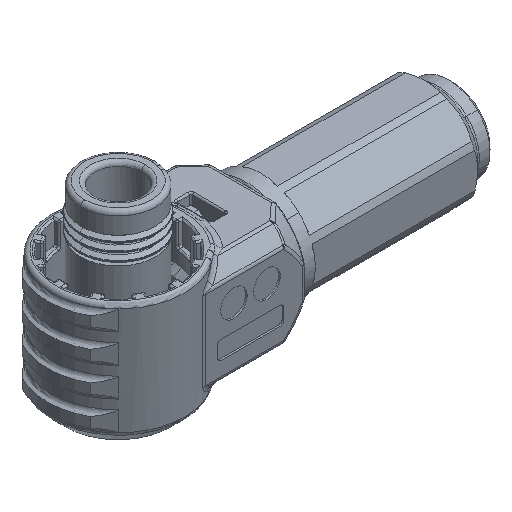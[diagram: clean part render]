
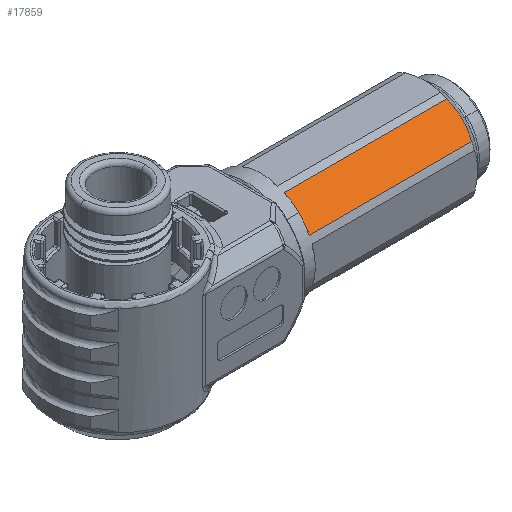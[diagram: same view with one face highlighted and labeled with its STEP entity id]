
A CAD part, isometric view. The second image highlights one B-rep face of the part: STEP entity #17859.
In plain terms, the highlighted planar face has unit normal (0, -0.695, 0.719).
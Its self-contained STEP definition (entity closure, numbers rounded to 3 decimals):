
#2560=DIRECTION('',(1.,0.,0.));
#2561=VECTOR('',#2560,19.5);
#2562=CARTESIAN_POINT('',(17.2,-5.786,8.112));
#2563=LINE('',#2562,#2561);
#2624=DIRECTION('',(-1.,0.,0.));
#2625=VECTOR('',#2624,19.5);
#2626=CARTESIAN_POINT('',(36.7,-2.759,11.036));
#2627=LINE('',#2626,#2625);
#2704=CARTESIAN_POINT('',(36.7,-5.786,8.112));
#2705=CARTESIAN_POINT('',(36.778,-5.612,8.28));
#2706=CARTESIAN_POINT('',(36.909,-5.267,8.613));
#2707=CARTESIAN_POINT('',(37.024,-4.767,9.096));
#2708=CARTESIAN_POINT('',(37.05,-4.436,9.416));
#2709=CARTESIAN_POINT('',(37.05,-4.272,9.574));
#2773=CARTESIAN_POINT('',(37.05,-4.272,9.574));
#2774=CARTESIAN_POINT('',(37.05,-4.108,9.732));
#2775=CARTESIAN_POINT('',(37.024,-3.777,10.052));
#2776=CARTESIAN_POINT('',(36.909,-3.277,10.535));
#2777=CARTESIAN_POINT('',(36.778,-2.933,10.867));
#2778=CARTESIAN_POINT('',(36.7,-2.759,11.036));
#2834=DIRECTION('',(0.,-0.719,-0.695));
#2835=VECTOR('',#2834,4.208);
#2836=CARTESIAN_POINT('',(17.2,-2.759,11.036));
#2837=LINE('',#2836,#2835);
#13334=CARTESIAN_POINT('',(17.2,-5.786,8.112));
#13335=VERTEX_POINT('',#13334);
#13336=CARTESIAN_POINT('',(36.7,-5.786,
8.112));
#13337=VERTEX_POINT('',#13336);
#13396=CARTESIAN_POINT('',(36.7,-2.759,11.036));
#13397=VERTEX_POINT('',#13396);
#13398=CARTESIAN_POINT('',(17.2,-2.759,11.036));
#13399=VERTEX_POINT('',#13398);
#13407=VERTEX_POINT('',#2709);
#17846=CARTESIAN_POINT('',(40.2,-5.786,8.112));
#17847=DIRECTION('',(0.,0.695,-0.719));
#17848=DIRECTION('',(0.,0.719,0.695));
#17849=AXIS2_PLACEMENT_3D('',#17846,#17847,#17848);
#17850=PLANE('',#17849);
#17852=ORIENTED_EDGE('',*,*,#17851,.F.);
#17853=ORIENTED_EDGE('',*,*,#17691,.F.);
#17854=ORIENTED_EDGE('',*,*,#17829,.F.);
#17855=ORIENTED_EDGE('',*,*,#17748,.F.);
#17856=ORIENTED_EDGE('',*,*,#17617,.F.);
#17857=EDGE_LOOP('',(#17852,#17853,#17854,#17855,#17856));
#17858=FACE_OUTER_BOUND('',#17857,.F.);
#17859=ADVANCED_FACE('',(#17858),#17850,.F.);
#2710=B_SPLINE_CURVE_WITH_KNOTS('',3,(#2704,#2705,#2706,#2707,#2708,#2709),
.UNSPECIFIED.,.F.,.F.,(4,1,1,4),(0.,0.333,0.667,1.),
.UNSPECIFIED.);
#2779=B_SPLINE_CURVE_WITH_KNOTS('',3,(#2773,#2774,#2775,#2776,#2777,#2778),
.UNSPECIFIED.,.F.,.F.,(4,1,1,4),(0.,0.333,0.667,1.),
.UNSPECIFIED.);
#17617=EDGE_CURVE('',#13335,#13337,#2563,.T.);
#17691=EDGE_CURVE('',#13397,#13399,#2627,.T.);
#17748=EDGE_CURVE('',#13337,#13407,#2710,.T.);
#17829=EDGE_CURVE('',#13407,#13397,#2779,.T.);
#17851=EDGE_CURVE('',#13399,#13335,#2837,.T.);
